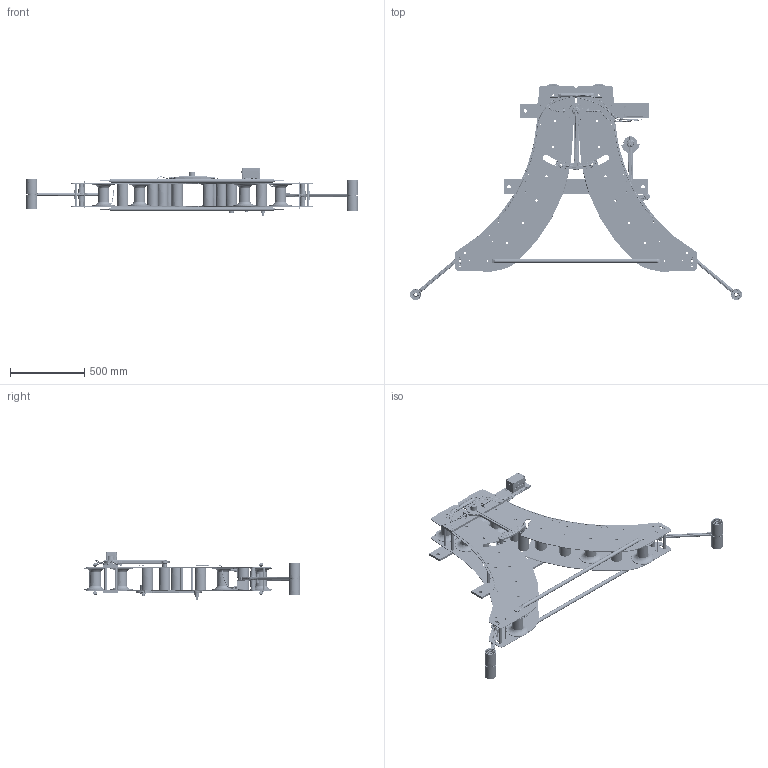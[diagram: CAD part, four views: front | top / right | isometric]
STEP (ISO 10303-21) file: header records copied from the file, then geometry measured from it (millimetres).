
FILE_DESCRIPTION(/* description */ (''),/* implementation_level */ '2;1');
FILE_NAME(/* name */ 'K:\MANDARIC\LS-1200-150 PRODUCT CONFIGURATION.stp',/* time_stamp */ '2017-12-01T12:39:57+01:00',/* author */ ('milman01'),/* organization */ ('Hillmar Industries Ltd.'),/* preprocessor_version */ 'ST-DEVELOPER v16.1',/* originating_system */ 'Autodesk Inventor 2016',/* authorisation */ '');
FILE_SCHEMA (('AUTOMOTIVE_DESIGN { 1 0 10303 214 3 1 1 }'));
Products named in the file (1): LS-1200-150 PRODUCT CONFIGURATION
Bounding box: 2232.66 x 1454.91 x 319.35 mm (x, y, z)
Volume: 22809329.4 mm3; surface area: 7857176 mm2
Topology: 25 solids, 97 shells, 20493 faces, 52316 edges, 31915 vertices
Faces by surface type: bspline 7896, plane 6174, cylinder 3354, torus 2032, cone 981, sphere 56
Full cylindrical faces by diameter (mm): 1 x16, 2.2 x16, 3 x6, 3.242 x30, 4 x12, 4.5 x4, 4.917 x4, 5 x4, 5.5 x15, 6 x6, 6.647 x4, 8 x20, 8.376 x4, 9 x32, 9.2 x4, 10 x6, 10.106 x20, 10.5 x8, 10.773 x4, 11 x4, 11.5 x4, 12 x17, 12.5 x4, 13 x41, 13.546 x2, 14 x9, 14.5 x4, 15 x20, 16 x53, 17 x1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
Entity records: 876293 total; most frequent: CARTESIAN_POINT 426420, ORIENTED_EDGE 100312, DIRECTION 71265, EDGE_CURVE 49904, VERTEX_POINT 31043, AXIS2_PLACEMENT_3D 30408, EDGE_LOOP 22695, B_SPLINE_CURVE_WITH_KNOTS 21394
